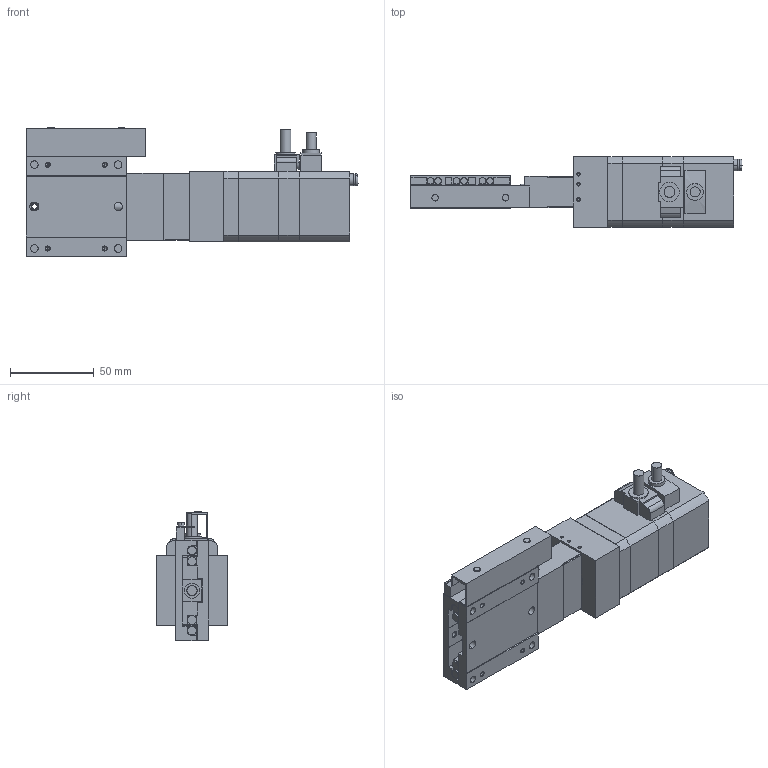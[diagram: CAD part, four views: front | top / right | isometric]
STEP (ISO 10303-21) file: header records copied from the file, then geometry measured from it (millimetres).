
FILE_DESCRIPTION(('STEP AP203'),'1');
FILE_NAME('C:/3D-Trans/3D_PG615T-L□-MA+240118.step','2024-02-26T08:25:56',(' '),(' '),'Spatial InterOp 3D',' ',' ');
FILE_SCHEMA(('CONFIG_CONTROL_DESIGN'));
Length unit declared in the file: millimetre
Products named in the file (6): 1; 2; 3; 4; 5; 6
Bounding box: 198 x 42 x 77.4 mm (x, y, z)
Volume: 243815.4 mm3; surface area: 65857.5 mm2
Topology: 6 solids, 6 shells, 616 faces, 1555 edges, 975 vertices
Faces by surface type: plane 323, cylinder 197, cone 92, torus 4
Entity records: 18603 total; most frequent: DIRECTION 3281, CARTESIAN_POINT 3188, ORIENTED_EDGE 3054, EDGE_CURVE 1527, AXIS2_PLACEMENT_3D 1138, LINE 1005, VECTOR 1005, VERTEX_POINT 975
